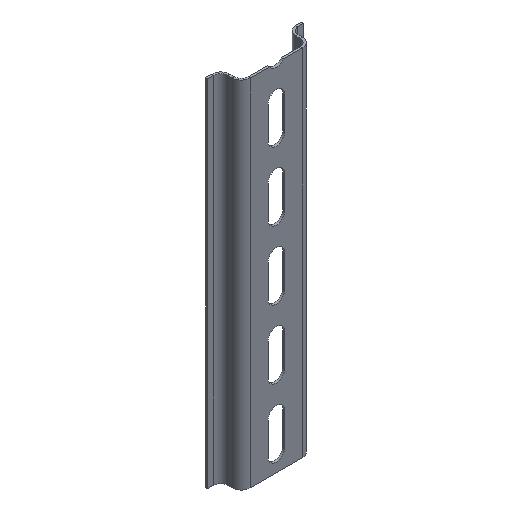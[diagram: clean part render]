
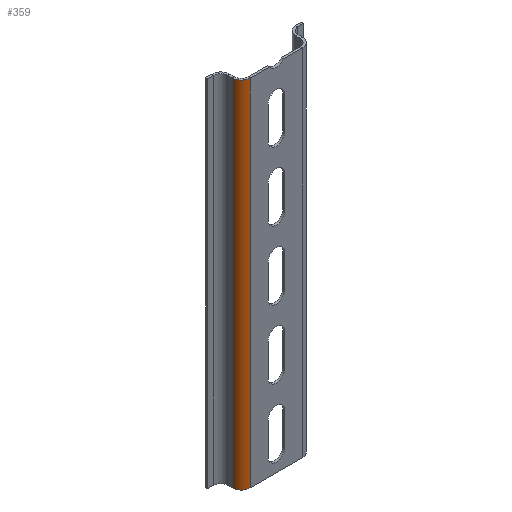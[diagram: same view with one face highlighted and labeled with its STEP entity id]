
A CAD part, isometric view. The second image highlights one B-rep face of the part: STEP entity #359.
In plain terms, the highlighted cylindrical face has radius 3.3 mm (diameter 6.6 mm), a partial arc.
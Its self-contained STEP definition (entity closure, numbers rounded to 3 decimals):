
#34 = ORIENTED_EDGE ( 'NONE', *, *, #679, .F. ) ;
#124 = EDGE_CURVE ( 'NONE', #581, #954, #180, .T. ) ;
#137 = CARTESIAN_POINT ( 'NONE',  ( -12.9, 2.5, 0. ) ) ;
#169 = DIRECTION ( 'NONE',  ( -1., 0., 0. ) ) ;
#180 = CIRCLE ( 'NONE', #908, 3.3 ) ;
#359 = ADVANCED_FACE ( 'NONE', ( #918 ), #818, .T. ) ;
#420 = CARTESIAN_POINT ( 'NONE',  ( -9.6, -0.8, 130. ) ) ;
#516 = CARTESIAN_POINT ( 'NONE',  ( -9.6, 2.5, 0. ) ) ;
#581 = VERTEX_POINT ( 'NONE', #420 ) ;
#595 = DIRECTION ( 'NONE',  ( 0., 0., -1. ) ) ;
#626 = DIRECTION ( 'NONE',  ( 0., 0., -1. ) ) ;
#664 = DIRECTION ( 'NONE',  ( 1., 0., 0. ) ) ;
#679 = EDGE_CURVE ( 'NONE', #581, #1006, #1308, .T. ) ;
#740 = EDGE_LOOP ( 'NONE', ( #1176, #34, #1526, #1436 ) ) ;
#756 = VECTOR ( 'NONE', #626, 1000. ) ;
#775 = DIRECTION ( 'NONE',  ( 0., 0., -1. ) ) ;
#792 = AXIS2_PLACEMENT_3D ( 'NONE', #1517, #775, #169 ) ;
#818 = CYLINDRICAL_SURFACE ( 'NONE', #792, 3.3 ) ;
#828 = EDGE_CURVE ( 'NONE', #1006, #1386, #1674, .T. ) ;
#886 = CARTESIAN_POINT ( 'NONE',  ( -9.6, -0.8, 130. ) ) ;
#892 = AXIS2_PLACEMENT_3D ( 'NONE', #516, #1385, #664 ) ;
#908 = AXIS2_PLACEMENT_3D ( 'NONE', #1496, #595, #1771 ) ;
#918 = FACE_OUTER_BOUND ( 'NONE', #740, .T. ) ;
#954 = VERTEX_POINT ( 'NONE', #1568 ) ;
#1006 = VERTEX_POINT ( 'NONE', #1746 ) ;
#1034 = VECTOR ( 'NONE', #1886, 1000. ) ;
#1059 = CARTESIAN_POINT ( 'NONE',  ( -12.9, 2.5, 130. ) ) ;
#1176 = ORIENTED_EDGE ( 'NONE', *, *, #828, .F. ) ;
#1308 = LINE ( 'NONE', #886, #1034 ) ;
#1362 = LINE ( 'NONE', #1059, #756 ) ;
#1385 = DIRECTION ( 'NONE',  ( 0., 0., -1. ) ) ;
#1386 = VERTEX_POINT ( 'NONE', #137 ) ;
#1436 = ORIENTED_EDGE ( 'NONE', *, *, #1724, .T. ) ;
#1496 = CARTESIAN_POINT ( 'NONE',  ( -9.6, 2.5, 130. ) ) ;
#1517 = CARTESIAN_POINT ( 'NONE',  ( -9.6, 2.5, 130. ) ) ;
#1526 = ORIENTED_EDGE ( 'NONE', *, *, #124, .T. ) ;
#1568 = CARTESIAN_POINT ( 'NONE',  ( -12.9, 2.5, 130. ) ) ;
#1674 = CIRCLE ( 'NONE', #892, 3.3 ) ;
#1724 = EDGE_CURVE ( 'NONE', #954, #1386, #1362, .T. ) ;
#1746 = CARTESIAN_POINT ( 'NONE',  ( -9.6, -0.8, 0. ) ) ;
#1771 = DIRECTION ( 'NONE',  ( 1., 0., 0. ) ) ;
#1886 = DIRECTION ( 'NONE',  ( 0., 0., -1. ) ) ;
